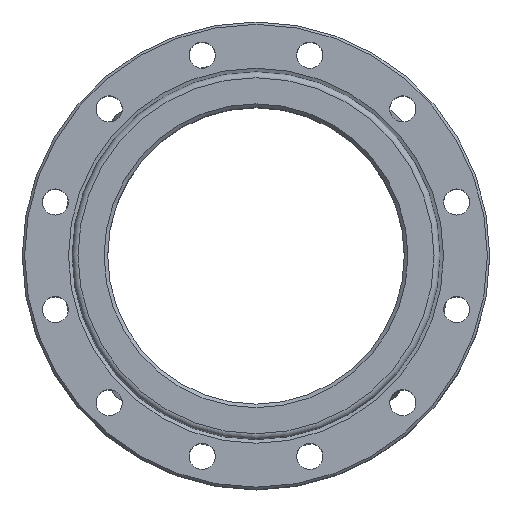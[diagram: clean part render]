
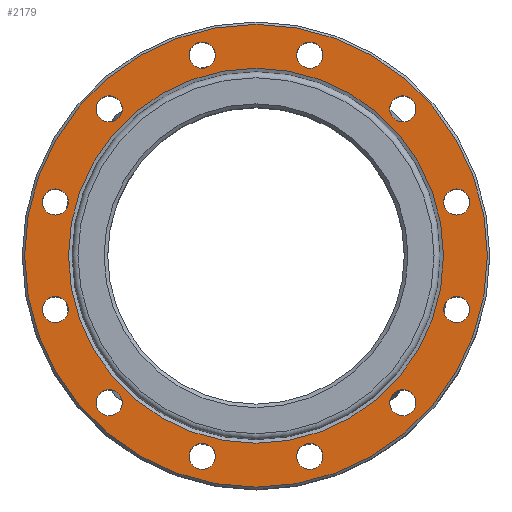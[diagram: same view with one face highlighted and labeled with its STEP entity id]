
A CAD part, top view. The second image highlights one B-rep face of the part: STEP entity #2179.
In plain terms, the highlighted planar face has unit normal (0, 0, 1).
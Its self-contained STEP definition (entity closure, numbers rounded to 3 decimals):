
#174=FACE_BOUND('',#428,.T.);
#175=FACE_BOUND('',#429,.T.);
#176=FACE_BOUND('',#430,.T.);
#177=FACE_BOUND('',#431,.T.);
#178=FACE_BOUND('',#432,.T.);
#179=FACE_BOUND('',#433,.T.);
#180=FACE_BOUND('',#434,.T.);
#181=FACE_BOUND('',#435,.T.);
#182=FACE_BOUND('',#436,.T.);
#183=FACE_BOUND('',#437,.T.);
#184=FACE_BOUND('',#438,.T.);
#185=FACE_BOUND('',#439,.T.);
#186=FACE_BOUND('',#440,.T.);
#195=PLANE('',#2364);
#273=FACE_OUTER_BOUND('',#427,.T.);
#427=EDGE_LOOP('',(#1488));
#428=EDGE_LOOP('',(#1489));
#429=EDGE_LOOP('',(#1490));
#430=EDGE_LOOP('',(#1491));
#431=EDGE_LOOP('',(#1492));
#432=EDGE_LOOP('',(#1493));
#433=EDGE_LOOP('',(#1494));
#434=EDGE_LOOP('',(#1495));
#435=EDGE_LOOP('',(#1496));
#436=EDGE_LOOP('',(#1497));
#437=EDGE_LOOP('',(#1498));
#438=EDGE_LOOP('',(#1499));
#439=EDGE_LOOP('',(#1500));
#440=EDGE_LOOP('',(#1501));
#789=CIRCLE('',#2363,195.);
#790=CIRCLE('',#2365,11.);
#791=CIRCLE('',#2366,11.);
#792=CIRCLE('',#2367,11.);
#793=CIRCLE('',#2368,11.);
#794=CIRCLE('',#2369,11.);
#795=CIRCLE('',#2370,11.);
#796=CIRCLE('',#2371,11.);
#797=CIRCLE('',#2372,11.);
#798=CIRCLE('',#2373,11.);
#799=CIRCLE('',#2374,11.);
#800=CIRCLE('',#2375,11.);
#801=CIRCLE('',#2376,11.);
#802=CIRCLE('',#2377,158.);
#950=VERTEX_POINT('',#3278);
#951=VERTEX_POINT('',#3282);
#952=VERTEX_POINT('',#3284);
#953=VERTEX_POINT('',#3286);
#954=VERTEX_POINT('',#3288);
#955=VERTEX_POINT('',#3290);
#956=VERTEX_POINT('',#3292);
#957=VERTEX_POINT('',#3294);
#958=VERTEX_POINT('',#3296);
#959=VERTEX_POINT('',#3298);
#960=VERTEX_POINT('',#3300);
#961=VERTEX_POINT('',#3302);
#962=VERTEX_POINT('',#3304);
#963=VERTEX_POINT('',#3306);
#1162=EDGE_CURVE('',#950,#950,#789,.T.);
#1163=EDGE_CURVE('',#951,#951,#790,.T.);
#1164=EDGE_CURVE('',#952,#952,#791,.T.);
#1165=EDGE_CURVE('',#953,#953,#792,.T.);
#1166=EDGE_CURVE('',#954,#954,#793,.T.);
#1167=EDGE_CURVE('',#955,#955,#794,.T.);
#1168=EDGE_CURVE('',#956,#956,#795,.T.);
#1169=EDGE_CURVE('',#957,#957,#796,.T.);
#1170=EDGE_CURVE('',#958,#958,#797,.T.);
#1171=EDGE_CURVE('',#959,#959,#798,.T.);
#1172=EDGE_CURVE('',#960,#960,#799,.T.);
#1173=EDGE_CURVE('',#961,#961,#800,.T.);
#1174=EDGE_CURVE('',#962,#962,#801,.T.);
#1175=EDGE_CURVE('',#963,#963,#802,.T.);
#1488=ORIENTED_EDGE('',*,*,#1162,.F.);
#1489=ORIENTED_EDGE('',*,*,#1163,.F.);
#1490=ORIENTED_EDGE('',*,*,#1164,.F.);
#1491=ORIENTED_EDGE('',*,*,#1165,.F.);
#1492=ORIENTED_EDGE('',*,*,#1166,.F.);
#1493=ORIENTED_EDGE('',*,*,#1167,.F.);
#1494=ORIENTED_EDGE('',*,*,#1168,.F.);
#1495=ORIENTED_EDGE('',*,*,#1169,.F.);
#1496=ORIENTED_EDGE('',*,*,#1170,.F.);
#1497=ORIENTED_EDGE('',*,*,#1171,.F.);
#1498=ORIENTED_EDGE('',*,*,#1172,.F.);
#1499=ORIENTED_EDGE('',*,*,#1173,.F.);
#1500=ORIENTED_EDGE('',*,*,#1174,.F.);
#1501=ORIENTED_EDGE('',*,*,#1175,.T.);
#2179=ADVANCED_FACE('',(#273,#174,#175,#176,#177,#178,#179,#180,#181,#182,
#183,#184,#185,#186),#195,.F.);
#2363=AXIS2_PLACEMENT_3D('',#3280,#2681,#2682);
#2364=AXIS2_PLACEMENT_3D('',#3281,#2683,#2684);
#2365=AXIS2_PLACEMENT_3D('',#3283,#2685,#2686);
#2366=AXIS2_PLACEMENT_3D('',#3285,#2687,#2688);
#2367=AXIS2_PLACEMENT_3D('',#3287,#2689,#2690);
#2368=AXIS2_PLACEMENT_3D('',#3289,#2691,#2692);
#2369=AXIS2_PLACEMENT_3D('',#3291,#2693,#2694);
#2370=AXIS2_PLACEMENT_3D('',#3293,#2695,#2696);
#2371=AXIS2_PLACEMENT_3D('',#3295,#2697,#2698);
#2372=AXIS2_PLACEMENT_3D('',#3297,#2699,#2700);
#2373=AXIS2_PLACEMENT_3D('',#3299,#2701,#2702);
#2374=AXIS2_PLACEMENT_3D('',#3301,#2703,#2704);
#2375=AXIS2_PLACEMENT_3D('',#3303,#2705,#2706);
#2376=AXIS2_PLACEMENT_3D('',#3305,#2707,#2708);
#2377=AXIS2_PLACEMENT_3D('',#3307,#2709,#2710);
#2681=DIRECTION('center_axis',(0.,0.,-1.));
#2682=DIRECTION('ref_axis',(-1.,0.,0.));
#2683=DIRECTION('center_axis',(0.,0.,-1.));
#2684=DIRECTION('ref_axis',(-1.,0.,0.));
#2685=DIRECTION('center_axis',(0.,0.,1.));
#2686=DIRECTION('ref_axis',(1.,0.,0.));
#2687=DIRECTION('center_axis',(0.,0.,1.));
#2688=DIRECTION('ref_axis',(1.,0.,0.));
#2689=DIRECTION('center_axis',(0.,0.,1.));
#2690=DIRECTION('ref_axis',(1.,0.,0.));
#2691=DIRECTION('center_axis',(0.,0.,1.));
#2692=DIRECTION('ref_axis',(1.,0.,0.));
#2693=DIRECTION('center_axis',(0.,0.,1.));
#2694=DIRECTION('ref_axis',(1.,0.,0.));
#2695=DIRECTION('center_axis',(0.,0.,1.));
#2696=DIRECTION('ref_axis',(1.,0.,0.));
#2697=DIRECTION('center_axis',(0.,0.,1.));
#2698=DIRECTION('ref_axis',(1.,0.,0.));
#2699=DIRECTION('center_axis',(0.,0.,1.));
#2700=DIRECTION('ref_axis',(1.,0.,0.));
#2701=DIRECTION('center_axis',(0.,0.,1.));
#2702=DIRECTION('ref_axis',(1.,0.,0.));
#2703=DIRECTION('center_axis',(0.,0.,1.));
#2704=DIRECTION('ref_axis',(1.,0.,0.));
#2705=DIRECTION('center_axis',(0.,0.,1.));
#2706=DIRECTION('ref_axis',(1.,0.,0.));
#2707=DIRECTION('center_axis',(0.,0.,1.));
#2708=DIRECTION('ref_axis',(1.,0.,0.));
#2709=DIRECTION('center_axis',(0.,0.,-1.));
#2710=DIRECTION('ref_axis',(0.,1.,0.));
#3278=CARTESIAN_POINT('',(195.,0.,111.));
#3280=CARTESIAN_POINT('Origin',(0.,0.,111.));
#3281=CARTESIAN_POINT('Origin',(0.,0.,111.));
#3282=CARTESIAN_POINT('',(-180.037,45.293,111.));
#3283=CARTESIAN_POINT('Origin',(-169.037,45.293,111.));
#3284=CARTESIAN_POINT('',(-180.037,-45.293,111.));
#3285=CARTESIAN_POINT('Origin',(-169.037,-45.293,111.));
#3286=CARTESIAN_POINT('',(-134.744,-123.744,111.));
#3287=CARTESIAN_POINT('Origin',(-123.744,-123.744,111.));
#3288=CARTESIAN_POINT('',(-56.293,-169.037,111.));
#3289=CARTESIAN_POINT('Origin',(-45.293,-169.037,111.));
#3290=CARTESIAN_POINT('',(34.293,-169.037,111.));
#3291=CARTESIAN_POINT('Origin',(45.293,-169.037,111.));
#3292=CARTESIAN_POINT('',(112.744,-123.744,111.));
#3293=CARTESIAN_POINT('Origin',(123.744,-123.744,111.));
#3294=CARTESIAN_POINT('',(158.037,-45.293,111.));
#3295=CARTESIAN_POINT('Origin',(169.037,-45.293,111.));
#3296=CARTESIAN_POINT('',(158.037,45.293,111.));
#3297=CARTESIAN_POINT('Origin',(169.037,45.293,111.));
#3298=CARTESIAN_POINT('',(112.744,123.744,111.));
#3299=CARTESIAN_POINT('Origin',(123.744,123.744,111.));
#3300=CARTESIAN_POINT('',(34.293,169.037,111.));
#3301=CARTESIAN_POINT('Origin',(45.293,169.037,111.));
#3302=CARTESIAN_POINT('',(-56.293,169.037,111.));
#3303=CARTESIAN_POINT('Origin',(-45.293,169.037,111.));
#3304=CARTESIAN_POINT('',(-134.744,123.744,111.));
#3305=CARTESIAN_POINT('Origin',(-123.744,123.744,111.));
#3306=CARTESIAN_POINT('',(0.,-158.,111.));
#3307=CARTESIAN_POINT('Origin',(0.,0.,111.));
